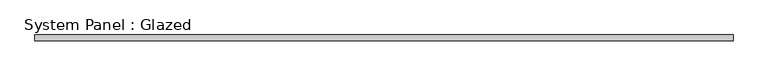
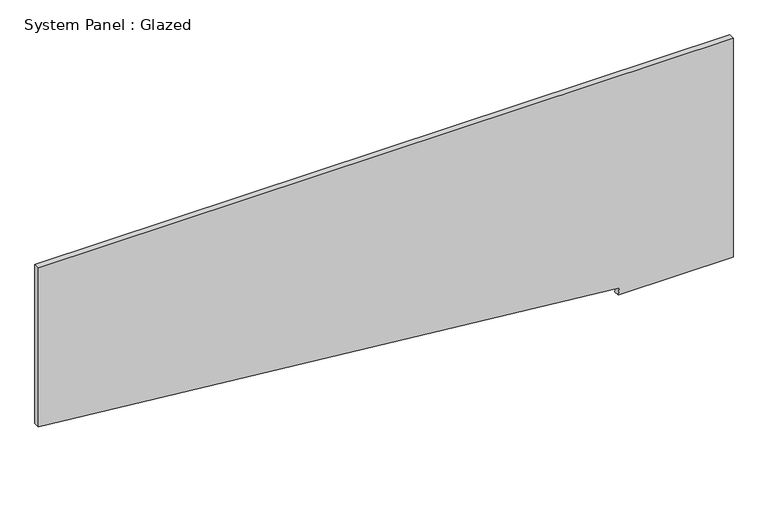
"""IFC4 building model written with IfcOpenShell, lengths in millimetres: plate geometry, System Panel : Glazed."""

from ifc_helpers import new_model, si_unit, frame, origin, place, context, project, spatial, polyline, outline, extrude, source, transform, mapped, element, save


def system_panel_glazed_a22f2db4(model_context):
    return source(origin(), model_context, "Body", "SweptSolid", [
        extrude(outline(polyline([(0.0, 1006.4139911), (0.0, 1504.95), (1003.3, 1504.95), (1003.3, -1504.95), (275.9368425, -1504.95), (31.4526644, 1012.5518422), (0.0, 1006.4139911)])), frame((0.0, 19.05, 0.0), z_axis=(0.0, 1.0, 0.0), x_axis=(0.0, 0.0, 1.0)), (0.0, 0.0, 1.0), 25.4),
    ])


if __name__ == "__main__":
    model = new_model("IFC4")
    model_context = context("Model", 3, world=origin())
    ifc_project = project(units=[si_unit("LENGTHUNIT", "METRE", prefix="MILLI")], contexts=[model_context])
    site = spatial("IfcSite", under=ifc_project)
    building = spatial("IfcBuilding", under=site)
    placement = place(None, origin())
    system_panel_glazed_shape = system_panel_glazed_a22f2db4(model_context)
    element("IfcPlate", 1, ObjectType="System Panel : Glazed", at=placement, inside=building, context=model_context, shape_type="MappedRepresentation", body=[
        mapped(system_panel_glazed_shape, transform((0.0, 0.0, 0.0), x_axis=(1.0, 0.0, 0.0), y_axis=(0.0, 1.0, 0.0), z_axis=(0.0, 0.0, 1.0))),
    ])
    save(model, "model.ifc")
